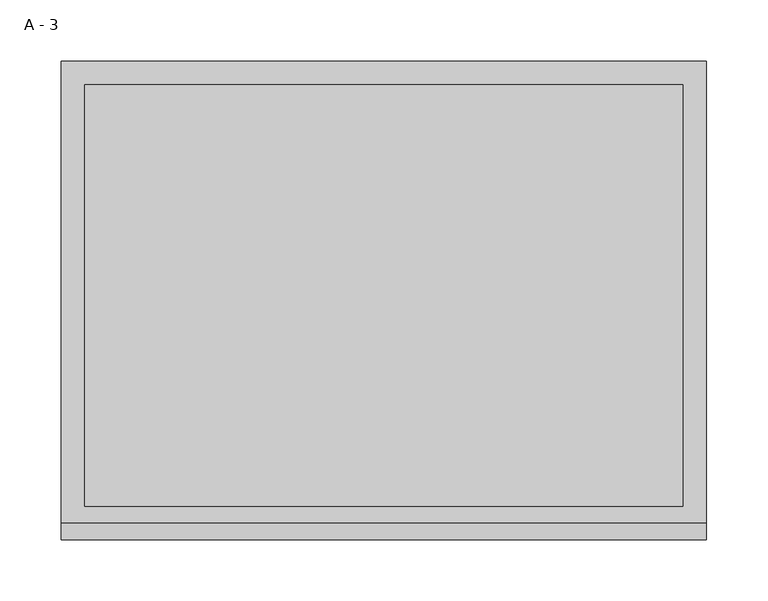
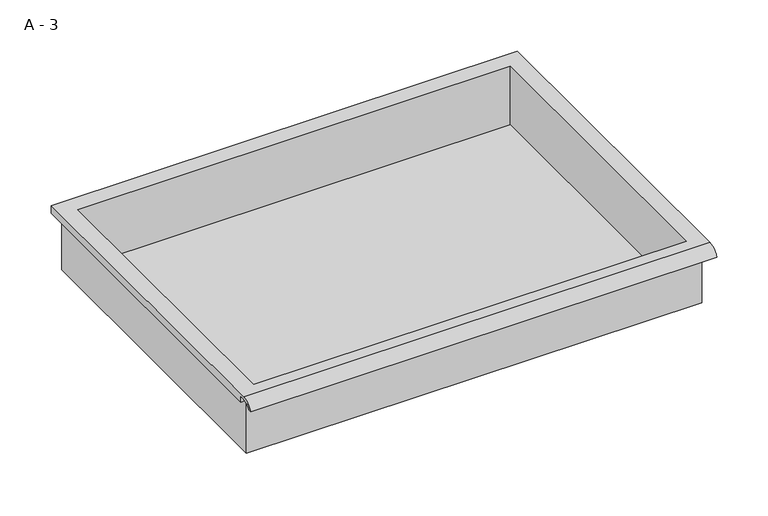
"""IFC4 building model written with IfcOpenShell, lengths in millimetres: furniture geometry, HermanMiller_CoStruc_CO207_Drawer : A - 3."""

from ifc_helpers import new_model, si_unit, frame, origin, place, context, project, spatial, polyline, circle_curve, source, transform, mapped, element, save
from ifc_brep_helpers import plane_surface, cylinder_surface, revolved_surface, advanced_brep


def a_3_34f6b35d(model_context):
    return source(origin(), model_context, "Body", "AdvancedBrep", [
        advanced_brep(
        [(-257.1076517, -176.2125, 930.275), (257.2423483, -176.2125, 930.275), (257.2423483, -176.2125, 993.775), (263.5923483, -176.2125, 993.775), (263.5923483, -176.2125, 1000.0821341), (-263.4576517, -176.2125, 1000.0821341), (-263.4576517, -176.2125, 993.775), (-257.1076517, -176.2125, 993.775), (257.2423483, 185.7375, 930.275), (-257.1076517, 185.7375, 930.275), (-257.1076517, 185.7375, 993.775), (257.2423483, 185.7375, 993.775), (263.5923483, -181.6070544, 1003.3), (263.5923483, 195.2625, 1003.3), (-263.4576517, 195.2625, 1003.3), (-263.4576517, -181.6070544, 1003.3), (244.5423483, -168.275, 1003.3), (-244.4076517, -168.275, 1003.3), (-244.4076517, 176.2125, 1003.3), (244.5423483, 176.2125, 1003.3), (263.5923483, -195.2625, 993.775), (263.5923483, -191.8280601, 993.775), (263.5923483, -180.4714815, 1000.0821341), (263.5923483, 195.2625, 993.775), (-263.4576517, 195.2625, 993.775), (-263.4576517, -180.4714815, 1000.0821341), (-263.4576517, -191.8280601, 993.775), (-263.4576517, -195.2625, 993.775), (-244.4076517, -168.275, 933.3011719), (244.5423483, -168.275, 933.3011719), (244.5423483, 176.2125, 933.3011719), (-244.4076517, 176.2125, 933.3011719)],
        [
            (0, 1),
            (1, 2),
            (2, 3),
            (3, 4),
            (4, 5),
            (5, 6),
            (6, 7),
            (7, 0),
            (8, 9),
            (9, 10),
            (10, 11),
            (11, 8),
            (0, 9),
            (8, 1),
            (11, 2),
            (12, 13),
            (13, 14),
            (14, 15),
            (15, 12),
            (16, 17),
            (17, 18),
            (18, 19),
            (19, 16),
            (7, 10),
            (12, 20, circle_curve(frame((263.5923483, -181.6070544, 988.7489859), z_axis=(1.0, 0.0, 0.0), x_axis=(0.0, 1.0, 0.0)), 14.5510141)),
            (20, 21),
            (21, 22, circle_curve(frame((263.5923483, -181.6070544, 988.7489859), z_axis=(-1.0, 0.0, 0.0), x_axis=(0.0, 1.0, 0.0)), 11.3898979)),
            (22, 4),
            (3, 23),
            (23, 13),
            (14, 24),
            (24, 6),
            (5, 25),
            (25, 26, circle_curve(frame((-263.4576517, -181.6070544, 988.7489859), z_axis=(1.0, 0.0, 0.0), x_axis=(0.0, 1.0, 0.0)), 11.3898979)),
            (26, 27),
            (27, 15, circle_curve(frame((-263.4576517, -181.6070544, 988.7489859), z_axis=(-1.0, 0.0, 0.0), x_axis=(0.0, 1.0, 0.0)), 14.5510141)),
            (27, 20),
            (26, 21),
            (25, 22),
            (24, 23),
            (28, 29),
            (29, 30),
            (30, 31),
            (31, 28),
            (28, 17),
            (16, 29),
            (19, 30),
            (18, 31),
        ],
        [
            plane_surface(frame((257.2423483, -176.2125, 930.275), z_axis=(0.0, -1.0, 0.0), x_axis=(1.0, 0.0, 0.0))),
            plane_surface(frame((257.2423483, 185.7375, 930.275), z_axis=(0.0, 1.0, 0.0), x_axis=(-1.0, 0.0, 0.0))),
            plane_surface(frame((-257.1076517, -176.2125, 930.275), z_axis=(0.0, 0.0, -1.0), x_axis=(0.0, 1.0, 0.0))),
            plane_surface(frame((257.2423483, -176.2125, 930.275), z_axis=(1.0, 0.0, 0.0), x_axis=(0.0, 1.0, 0.0))),
            plane_surface(frame((257.2423483, -176.2125, 1003.3), z_axis=(0.0, 0.0, 1.0), x_axis=(0.0, 1.0, 0.0))),
            plane_surface(frame((-257.1076517, -176.2125, 1003.3), z_axis=(-1.0, 0.0, 0.0), x_axis=(0.0, 1.0, 0.0))),
            plane_surface(frame((263.5923483, 195.2625, 1003.3), z_axis=(1.0, 0.0, 0.0), x_axis=(0.0, -1.0, 0.0))),
            plane_surface(frame((-263.4576517, 195.2625, 1003.3), z_axis=(-1.0, 0.0, 0.0), x_axis=(0.0, 1.0, 0.0))),
            cylinder_surface(frame((-263.4576517, -181.6070544, 988.7489859), z_axis=(1.0, 0.0, 0.0), x_axis=(0.0, 1.0, 0.0)), 14.5510141),
            plane_surface(frame((263.5923483, -195.2625, 993.775), z_axis=(0.0, -7.133584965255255e-12, -1.0), x_axis=(-1.0, 0.0, 0.0))),
            revolved_surface(polyline([(-263.4576517, -170.21715650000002, 988.7489859), (263.59234829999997, -170.21715650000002, 988.7489859)]), (-263.4576517, -181.6070544, 988.7489859), (-1.0, 0.0, 0.0)),
            plane_surface(frame((263.5923483, -180.4714815, 1000.0821341), z_axis=(0.0, -1.7670719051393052e-11, -1.0), x_axis=(-1.0, 0.0, 0.0))),
            plane_surface(frame((263.5923483, -176.2125, 993.775), z_axis=(0.0, 0.0, -1.0), x_axis=(-1.0, 0.0, 0.0))),
            plane_surface(frame((263.5923483, 195.2625, 993.775), z_axis=(0.0, 1.0, 0.0), x_axis=(-1.0, 0.0, 0.0))),
            plane_surface(frame((244.5423483, -168.275, 933.3011719), z_axis=(0.0, 0.0, 1.0), x_axis=(-1.0, 0.0, 0.0))),
            plane_surface(frame((-244.4076517, -168.275, 1003.3), z_axis=(0.0, 1.0, 0.0), x_axis=(0.0, 0.0, -1.0))),
            plane_surface(frame((244.5423483, -168.275, 1003.3), z_axis=(-1.0, 0.0, 0.0), x_axis=(0.0, 0.0, -1.0))),
            plane_surface(frame((244.5423483, 176.2125, 1003.3), z_axis=(0.0, -1.0, 0.0), x_axis=(0.0, 0.0, -1.0))),
            plane_surface(frame((-244.4076517, 176.2125, 1003.3), z_axis=(1.0, 0.0, 0.0), x_axis=(0.0, 0.0, -1.0))),
        ],
        [
            (0, [[1, 2, 3, 4, 5, 6, 7, 8]]),
            (1, [[9, 10, 11, 12]]),
            (2, [[-1, 13, -9, 14]]),
            (3, [[-14, -12, 15, -2]]),
            (4, [[16, 17, 18, 19], [20, 21, 22, 23]]),
            (5, [[-13, -8, 24, -10]]),
            (6, [[-16, 25, 26, 27, 28, -4, 29, 30]]),
            (7, [[31, 32, -6, 33, 34, 35, 36, -18]]),
            (8, [[-25, -19, -36, 37]]),
            (9, [[-26, -37, -35, 38]]),
            (10, [[-27, -38, -34, 39]]),
            (11, [[-28, -39, -33, -5]]),
            (12, [[-29, -3, -15, -11, -24, -7, -32, 40]]),
            (13, [[-30, -40, -31, -17]]),
            (14, [[41, 42, 43, 44]]),
            (15, [[-41, 45, -20, 46]]),
            (16, [[-42, -46, -23, 47]]),
            (17, [[-43, -47, -22, 48]]),
            (18, [[-44, -48, -21, -45]]),
        ],
    ),
    ])


if __name__ == "__main__":
    model = new_model("IFC4")
    model_context = context("Model", 3, world=origin())
    ifc_project = project(units=[si_unit("LENGTHUNIT", "METRE", prefix="MILLI")], contexts=[model_context])
    site = spatial("IfcSite", under=ifc_project)
    building = spatial("IfcBuilding", under=site)
    placement = place(None, origin())
    a_3_shape = a_3_34f6b35d(model_context)
    element("IfcFurniture", 1, ObjectType="HermanMiller_CoStruc_CO207_Drawer : A - 3", at=placement, inside=building, context=model_context, shape_type="MappedRepresentation", body=[
        mapped(a_3_shape, transform((0.0, 0.0, 0.0), x_axis=(1.0, 0.0, 0.0), y_axis=(0.0, 1.0, 0.0), z_axis=(0.0, 0.0, 1.0))),
    ])
    save(model, "model.ifc")
